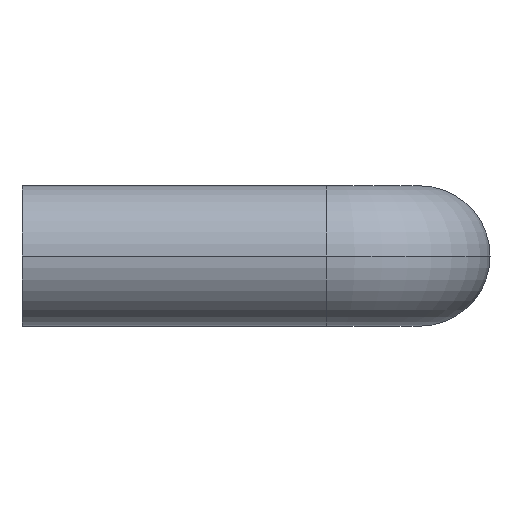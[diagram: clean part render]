
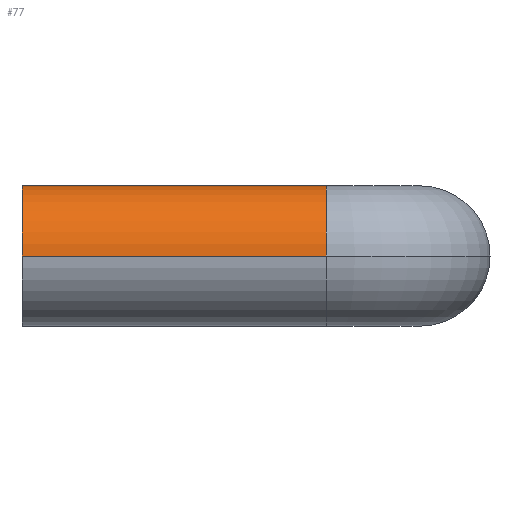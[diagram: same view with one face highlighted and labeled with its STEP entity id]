
A CAD part, left-side view. The second image highlights one B-rep face of the part: STEP entity #77.
In plain terms, the highlighted cylindrical face has radius 6 mm (diameter 12 mm), a partial arc.
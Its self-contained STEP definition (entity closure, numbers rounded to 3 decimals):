
#77 = ADVANCED_FACE( '', ( #98 ), #99, .T. );
#98 = FACE_OUTER_BOUND( '', #136, .T. );
#99 = CYLINDRICAL_SURFACE( '', #137, 6. );
#136 = EDGE_LOOP( '', ( #184, #185, #186, #187 ) );
#137 = AXIS2_PLACEMENT_3D( '', #188, #189, #190 );
#184 = ORIENTED_EDGE( '', *, *, #300, .F. );
#185 = ORIENTED_EDGE( '', *, *, #301, .F. );
#186 = ORIENTED_EDGE( '', *, *, #302, .F. );
#187 = ORIENTED_EDGE( '', *, *, #295, .T. );
#188 = CARTESIAN_POINT( '', ( 0., 0., 0. ) );
#189 = DIRECTION( '', ( 0., 1., 0. ) );
#190 = DIRECTION( '', ( 1., 0., 0. ) );
#295 = EDGE_CURVE( '', #327, #331, #333, .T. );
#300 = EDGE_CURVE( '', #342, #331, #343, .T. );
#301 = EDGE_CURVE( '', #344, #342, #345, .T. );
#302 = EDGE_CURVE( '', #327, #344, #346, .T. );
#327 = VERTEX_POINT( '', #381 );
#331 = VERTEX_POINT( '', #385 );
#333 = CIRCLE( '', #387, 6. );
#342 = VERTEX_POINT( '', #396 );
#343 = LINE( '', #397, #398 );
#344 = VERTEX_POINT( '', #399 );
#345 = CIRCLE( '', #400, 6. );
#346 = LINE( '', #401, #402 );
#381 = CARTESIAN_POINT( '', ( -6., -26., 0. ) );
#385 = CARTESIAN_POINT( '', ( 6., -26., 0. ) );
#387 = AXIS2_PLACEMENT_3D( '', #453, #454, #455 );
#396 = CARTESIAN_POINT( '', ( 6., 0., 0. ) );
#397 = CARTESIAN_POINT( '', ( 6., 0., 0. ) );
#398 = VECTOR( '', #468, 1. );
#399 = CARTESIAN_POINT( '', ( -6., 0., 0. ) );
#400 = AXIS2_PLACEMENT_3D( '', #469, #470, #471 );
#401 = CARTESIAN_POINT( '', ( -6., 0., 0. ) );
#402 = VECTOR( '', #472, 1. );
#453 = CARTESIAN_POINT( '', ( 0., -26., 0. ) );
#454 = DIRECTION( '', ( 0., 1., 0. ) );
#455 = DIRECTION( '', ( 1., 0., 0. ) );
#468 = DIRECTION( '', ( 0., -1., 0. ) );
#469 = CARTESIAN_POINT( '', ( 0., 0., 0. ) );
#470 = DIRECTION( '', ( 0., 1., 0. ) );
#471 = DIRECTION( '', ( 1., 0., 0. ) );
#472 = DIRECTION( '', ( 0., 1., 0. ) );
